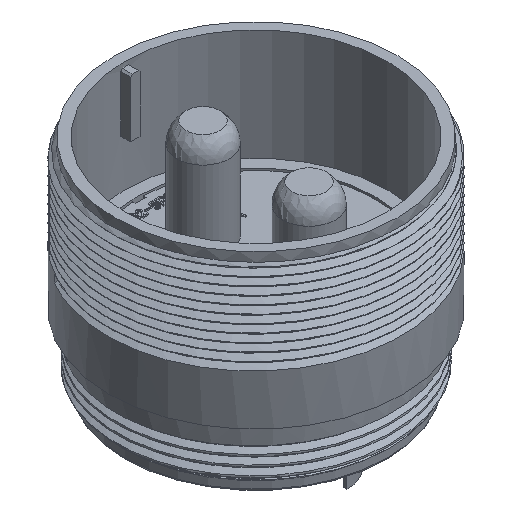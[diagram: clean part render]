
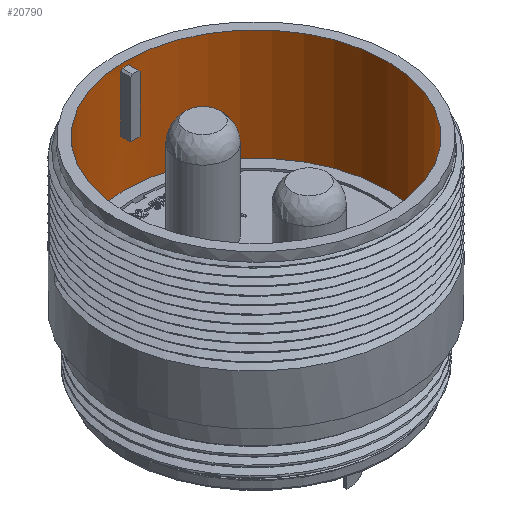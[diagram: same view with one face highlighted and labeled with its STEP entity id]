
A CAD part, isometric view. The second image highlights one B-rep face of the part: STEP entity #20790.
In plain terms, the highlighted cylindrical face has radius 22.56 mm (diameter 45.12 mm), a full revolution.
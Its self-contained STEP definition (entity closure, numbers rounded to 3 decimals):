
#33 = VERTEX_POINT ( 'NONE', #20380 ) ;
#132 = CARTESIAN_POINT ( 'NONE',  ( -0.725, 22.549, -1. ) ) ;
#136 = CARTESIAN_POINT ( 'NONE',  ( 0.725, 22.549, -1. ) ) ;
#421 = AXIS2_PLACEMENT_3D ( 'NONE', #12121, #809, #13792 ) ;
#498 = CIRCLE ( 'NONE', #421, 22.56 ) ;
#671 = CARTESIAN_POINT ( 'NONE',  ( 0.825, 22.545, -1.1 ) ) ;
#809 = DIRECTION ( 'NONE',  ( 0., 0., 1. ) ) ;
#821 = DIRECTION ( 'NONE',  ( 1., 0., 0. ) ) ;
#907 = CARTESIAN_POINT ( 'NONE',  ( 0.825, 22.545, -10.8 ) ) ;
#1047 = EDGE_LOOP ( 'NONE', ( #13603, #17108, #20358, #16716, #7144, #15096 ) ) ;
#1194 =( BOUNDED_CURVE ( )  B_SPLINE_CURVE ( 3, ( #14673, #19335, #136, #16149 ),
 .UNSPECIFIED., .F., .T. ) 
 B_SPLINE_CURVE_WITH_KNOTS ( ( 4, 4 ),
 ( 1.594, 1.607 ),
 .UNSPECIFIED. ) 
 CURVE ( )  GEOMETRIC_REPRESENTATION_ITEM ( )  RATIONAL_B_SPLINE_CURVE ( ( 1., 1., 1., 1. ) ) 
 REPRESENTATION_ITEM ( '' )  );
#1236 = EDGE_CURVE ( 'NONE', #16658, #14723, #13377, .T. ) ;
#1633 = CARTESIAN_POINT ( 'NONE',  ( -0.525, 22.554, -0.8 ) ) ;
#1953 = VECTOR ( 'NONE', #6002, 1000. ) ;
#2300 = DIRECTION ( 'NONE',  ( 0., 0., 1. ) ) ;
#2378 = DIRECTION ( 'NONE',  ( 1., 0., 0. ) ) ;
#2666 = DIRECTION ( 'NONE',  ( 0., 0., 1. ) ) ;
#2830 = CARTESIAN_POINT ( 'NONE',  ( -0.825, 22.545, -1.1 ) ) ;
#3420 = EDGE_CURVE ( 'NONE', #33, #33, #20821, .T. ) ;
#3467 = EDGE_CURVE ( 'NONE', #20084, #7394, #498, .T. ) ;
#3535 = CIRCLE ( 'NONE', #14667, 22.56 ) ;
#3742 = CARTESIAN_POINT ( 'NONE',  ( 0., 0., 0. ) ) ;
#4111 = CARTESIAN_POINT ( 'NONE',  ( 22.56, 0., -19.18 ) ) ;
#4306 = EDGE_CURVE ( 'NONE', #12253, #16658, #13522, .T. ) ;
#4784 = CYLINDRICAL_SURFACE ( 'NONE', #16143, 22.56 ) ;
#5207 = EDGE_CURVE ( 'NONE', #12253, #16084, #11750, .T. ) ;
#5370 = DIRECTION ( 'NONE',  ( 1., 0., 0. ) ) ;
#6002 = DIRECTION ( 'NONE',  ( 0., 0., 1. ) ) ;
#6430 = EDGE_CURVE ( 'NONE', #14723, #7394, #12682, .T. ) ;
#6819 = VECTOR ( 'NONE', #2666, 1000. ) ;
#7144 = ORIENTED_EDGE ( 'NONE', *, *, #3467, .F. ) ;
#7211 = CARTESIAN_POINT ( 'NONE',  ( 0., 0., -19.18 ) ) ;
#7394 = VERTEX_POINT ( 'NONE', #1633 ) ;
#7885 = EDGE_CURVE ( 'NONE', #20084, #16084, #1194, .T. ) ;
#8885 = CARTESIAN_POINT ( 'NONE',  ( 0.825, 22.545, -10.8 ) ) ;
#9099 = FACE_BOUND ( 'NONE', #1047, .T. ) ;
#9560 = DIRECTION ( 'NONE',  ( 0., 0., 1. ) ) ;
#9805 = CARTESIAN_POINT ( 'NONE',  ( -0.625, 22.552, -0.9 ) ) ;
#10086 = FACE_OUTER_BOUND ( 'NONE', #19830, .T. ) ;
#11750 = LINE ( 'NONE', #907, #1953 ) ;
#12121 = CARTESIAN_POINT ( 'NONE',  ( 0., 0., -0.8 ) ) ;
#12253 = VERTEX_POINT ( 'NONE', #8885 ) ;
#12589 = EDGE_LOOP ( 'NONE', ( #20684 ) ) ;
#12682 =( BOUNDED_CURVE ( )  B_SPLINE_CURVE ( 3, ( #19408, #132, #9805, #14734 ),
 .UNSPECIFIED., .F., .T. ) 
 B_SPLINE_CURVE_WITH_KNOTS ( ( 4, 4 ),
 ( 4.676, 4.689 ),
 .UNSPECIFIED. ) 
 CURVE ( )  GEOMETRIC_REPRESENTATION_ITEM ( )  RATIONAL_B_SPLINE_CURVE ( ( 1., 1., 1., 1. ) ) 
 REPRESENTATION_ITEM ( '' )  );
#12940 = CARTESIAN_POINT ( 'NONE',  ( 0., 0., -10.8 ) ) ;
#13366 = FACE_OUTER_BOUND ( 'NONE', #12589, .T. ) ;
#13377 = LINE ( 'NONE', #20326, #6819 ) ;
#13522 = CIRCLE ( 'NONE', #19241, 22.56 ) ;
#13603 = ORIENTED_EDGE ( 'NONE', *, *, #5207, .F. ) ;
#13792 = DIRECTION ( 'NONE',  ( 1., 0., 0. ) ) ;
#14667 = AXIS2_PLACEMENT_3D ( 'NONE', #7211, #15225, #2378 ) ;
#14673 = CARTESIAN_POINT ( 'NONE',  ( 0.525, 22.554, -0.8 ) ) ;
#14723 = VERTEX_POINT ( 'NONE', #2830 ) ;
#14734 = CARTESIAN_POINT ( 'NONE',  ( -0.525, 22.554, -0.8 ) ) ;
#15096 = ORIENTED_EDGE ( 'NONE', *, *, #7885, .T. ) ;
#15225 = DIRECTION ( 'NONE',  ( 0., 0., 1. ) ) ;
#16084 = VERTEX_POINT ( 'NONE', #671 ) ;
#16143 = AXIS2_PLACEMENT_3D ( 'NONE', #19977, #2300, #821 ) ;
#16149 = CARTESIAN_POINT ( 'NONE',  ( 0.825, 22.545, -1.1 ) ) ;
#16658 = VERTEX_POINT ( 'NONE', #18936 ) ;
#16716 = ORIENTED_EDGE ( 'NONE', *, *, #6430, .T. ) ;
#17030 = CARTESIAN_POINT ( 'NONE',  ( 0.525, 22.554, -0.8 ) ) ;
#17108 = ORIENTED_EDGE ( 'NONE', *, *, #4306, .T. ) ;
#18936 = CARTESIAN_POINT ( 'NONE',  ( -0.825, 22.545, -10.8 ) ) ;
#19085 = VERTEX_POINT ( 'NONE', #4111 ) ;
#19241 = AXIS2_PLACEMENT_3D ( 'NONE', #12940, #9560, #20724 ) ;
#19335 = CARTESIAN_POINT ( 'NONE',  ( 0.625, 22.552, -0.9 ) ) ;
#19408 = CARTESIAN_POINT ( 'NONE',  ( -0.825, 22.545, -1.1 ) ) ;
#19495 = AXIS2_PLACEMENT_3D ( 'NONE', #3742, #19763, #5370 ) ;
#19763 = DIRECTION ( 'NONE',  ( 0., 0., 1. ) ) ;
#19830 = EDGE_LOOP ( 'NONE', ( #20570 ) ) ;
#19977 = CARTESIAN_POINT ( 'NONE',  ( 0., 0., 22.455 ) ) ;
#20084 = VERTEX_POINT ( 'NONE', #17030 ) ;
#20326 = CARTESIAN_POINT ( 'NONE',  ( -0.825, 22.545, -10.8 ) ) ;
#20358 = ORIENTED_EDGE ( 'NONE', *, *, #1236, .T. ) ;
#20380 = CARTESIAN_POINT ( 'NONE',  ( 22.56, 0., 0. ) ) ;
#20570 = ORIENTED_EDGE ( 'NONE', *, *, #3420, .T. ) ;
#20684 = ORIENTED_EDGE ( 'NONE', *, *, #20705, .F. ) ;
#20705 = EDGE_CURVE ( 'NONE', #19085, #19085, #3535, .T. ) ;
#20724 = DIRECTION ( 'NONE',  ( 1., 0., 0. ) ) ;
#20790 = ADVANCED_FACE ( 'NONE', ( #10086, #13366, #9099 ), #4784, .F. ) ;
#20821 = CIRCLE ( 'NONE', #19495, 22.56 ) ;
